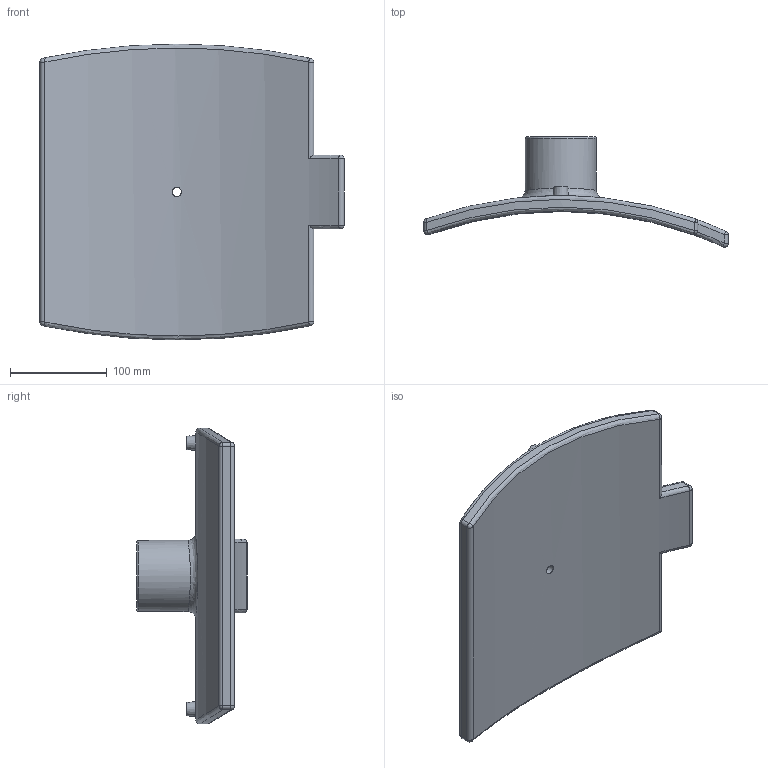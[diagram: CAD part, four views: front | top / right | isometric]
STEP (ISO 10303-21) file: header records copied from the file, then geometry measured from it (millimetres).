
FILE_DESCRIPTION(/* description */ ('PLASSON BRANCH SADDLE 450-800 x 2'''''),/* implementation_level */ '2;1');
FILE_NAME(/* name */ 'C:\Dropbox\KIMPROJECTS-Inventor 2019\99-16-3568-Processing\ElectroFusion Fittings\493804-2\493804710020.stp',/* time_stamp */ '2021-09-05T10:51:29+03:00',/* author */ ('KIM'),/* organization */ (''),/* preprocessor_version */ 'ST-DEVELOPER v17.2',/* originating_system */ 'Autodesk Inventor 2019',/* authorisation */ '');
FILE_SCHEMA (('AUTOMOTIVE_DESIGN { 1 0 10303 214 3 1 1 }'));
Length unit declared in the file: millimetre
Products named in the file (1): 493804710020
Bounding box: 315 x 114.15 x 306 mm (x, y, z)
Volume: 1518651.4 mm3; surface area: 218348.1 mm2
Topology: 1 solids, 1 shells, 68 faces, 139 edges, 83 vertices
Faces by surface type: cylinder 28, plane 15, sphere 12, torus 6, bspline 5, cone 2
Full cylindrical faces by diameter (mm): 4 x2, 9.6 x1, 10 x2, 16 x1, 53.823 x1, 56.656 x1, 73.653 x1
Entity records: 2442 total; most frequent: CARTESIAN_POINT 969, DIRECTION 315, ORIENTED_EDGE 278, EDGE_CURVE 139, AXIS2_PLACEMENT_3D 137, VERTEX_POINT 83, EDGE_LOOP 80, CIRCLE 73
